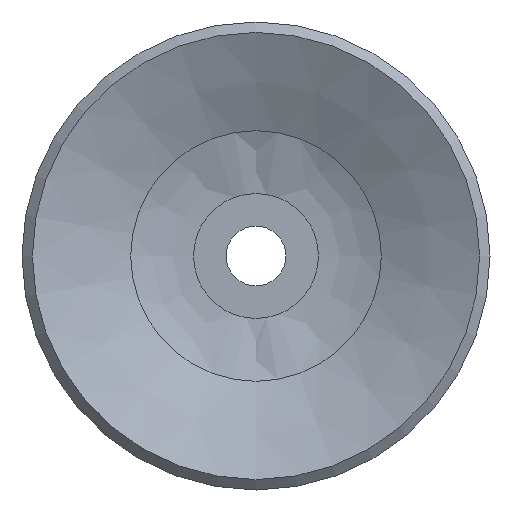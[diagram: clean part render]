
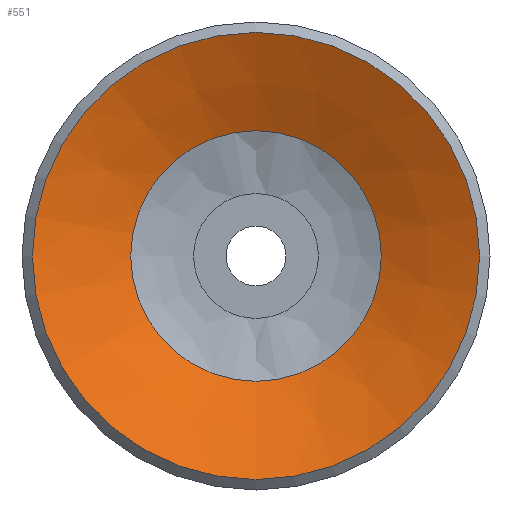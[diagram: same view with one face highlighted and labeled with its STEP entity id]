
A CAD part, front view. The second image highlights one B-rep face of the part: STEP entity #551.
In plain terms, the highlighted conical face has half-angle 65.056 degrees and reference radius 3.2 mm.
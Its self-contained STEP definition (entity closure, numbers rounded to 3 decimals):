
#551=ADVANCED_FACE('',(#811,#812),#813,.F.);
#811=FACE_BOUND('',#1142,.T.);
#812=FACE_OUTER_BOUND('',#1143,.T.);
#813=CONICAL_SURFACE('',#1144,3.2,1.135);
#1142=EDGE_LOOP('',(#1833));
#1143=EDGE_LOOP('',(#1834));
#1144=AXIS2_PLACEMENT_3D('',#1835,#1836,#1837);
#1833=ORIENTED_EDGE('',*,*,#2138,.T.);
#1834=ORIENTED_EDGE('',*,*,#2139,.T.);
#1835=CARTESIAN_POINT('',(0.0,7.896,0.0));
#1836=DIRECTION('',(-0.0,-1.0,0.));
#1837=DIRECTION('',(0.0,0.,-1.0));
#2138=EDGE_CURVE('',#2465,#2465,#2466,.T.);
#2139=EDGE_CURVE('',#2467,#2467,#2468,.T.);
#2465=VERTEX_POINT('',#3165);
#2466=CIRCLE('',#3166,4.203);
#2467=VERTEX_POINT('',#3167);
#2468=CIRCLE('',#3168,7.5);
#3165=CARTESIAN_POINT('',(0.0,7.43,-4.203));
#3166=AXIS2_PLACEMENT_3D('',#3502,#3503,#3504);
#3167=CARTESIAN_POINT('',(0.0,5.896,-7.5));
#3168=AXIS2_PLACEMENT_3D('',#3505,#3506,#3507);
#3502=CARTESIAN_POINT('',(0.0,7.43,0.0));
#3503=DIRECTION('',(0.0,1.0,0.));
#3504=DIRECTION('',(0.0,0.,-1.0));
#3505=CARTESIAN_POINT('',(0.0,5.896,0.0));
#3506=DIRECTION('',(0.0,-1.0,0.));
#3507=DIRECTION('',(0.0,0.,-1.0));
